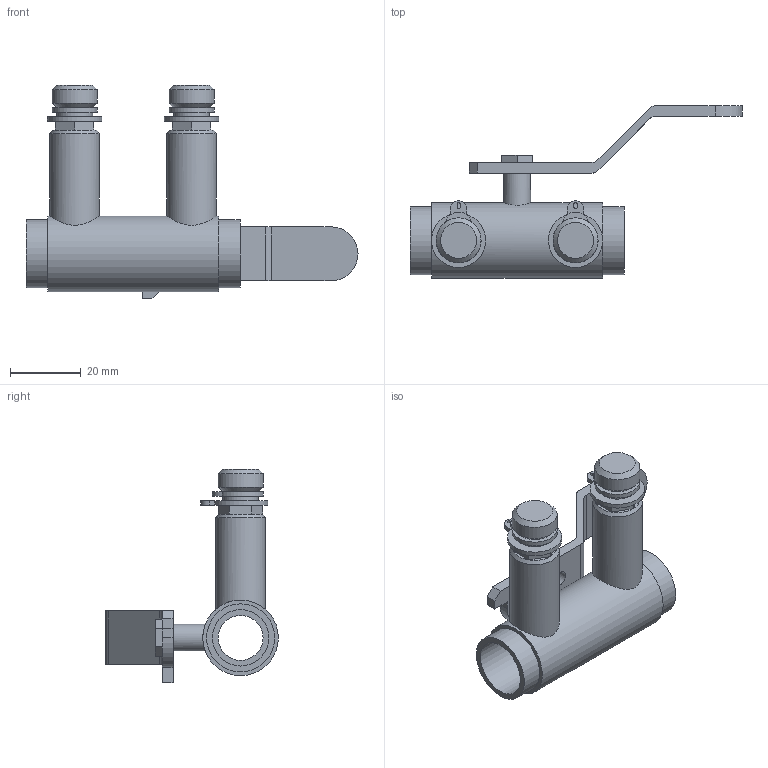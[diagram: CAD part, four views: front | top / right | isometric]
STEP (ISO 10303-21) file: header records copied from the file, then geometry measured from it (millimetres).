
FILE_DESCRIPTION(/* description */ ('VIC BALANCING VALVE SERIES 78BL (SWT)','CAx-IF Rec.Pracs.---Representation and Presentation of Product Manufacturing Information (PMI)---4.0---2014-10-13'),/* implementation_level */ '2;1');
FILE_NAME(/* name */ 'C:\Users\kkamble\Desktop\New folder (12)\New folder\step\Victaulic-IPS-TA Balancing Ball Valve Series 78BL (SWT)\Victaulic-IPS-TA Balancing Ball Valve Series 78BL (SWT)_0.5 (15).stp',/* time_stamp */ '2020-10-13T18:38:58+05:00',/* author */ ('kkamble'),/* organization */ ('Victaulic'),/* preprocessor_version */ 'ST-DEVELOPER v17.2',/* originating_system */ 'Autodesk Inventor 2019',/* authorisation */ '');
FILE_SCHEMA (('AP242_MANAGED_MODEL_BASED_3D_ENGINEERING_MIM_LF { 1 0 10303 442 1 1 4 }'));
Length unit declared in the file: inch
Products named in the file (1): 78BL-0.5
Bounding box: 93.73 x 48.77 x 60.33 mm (x, y, z)
Volume: 25577.9 mm3; surface area: 14286.1 mm2
Topology: 1 solids, 1 shells, 115 faces, 301 edges, 191 vertices
Faces by surface type: plane 77, cylinder 32, cone 6
Full cylindrical faces by diameter (mm): 4.318 x1, 7.62 x1, 10.16 x2, 12.7 x3, 13.97 x2, 15.926 x2, 19.202 x2, 21.336 x1
Entity records: 3941 total; most frequent: CARTESIAN_POINT 727, DIRECTION 654, ORIENTED_EDGE 602, EDGE_CURVE 301, AXIS2_PLACEMENT_3D 230, LINE 194, VECTOR 194, VERTEX_POINT 191
